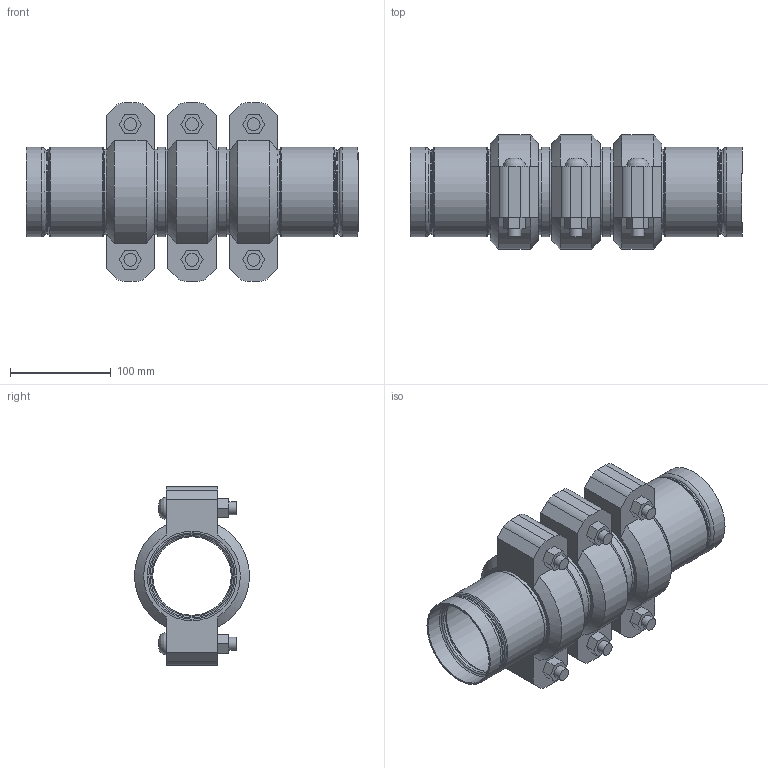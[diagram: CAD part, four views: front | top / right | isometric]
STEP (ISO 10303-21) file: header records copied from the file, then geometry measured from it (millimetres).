
FILE_DESCRIPTION(/* description */ ('VIC STRENGTHIN 100 EXPANSION JOINT 3 COUPLINGS EXPANDED STYLE E155 (ST1)','CAx-IF Rec.Pracs.---Representation and Presentation of Product Manufacturing Information (PMI)---4.0---2014-10-13'),/* implementation_level */ '2;1');
FILE_NAME(/* name */ 'C:\Users\Vjadhav\AppData\Roaming\Autodesk\ApplicationPlugins\Victaulic.Temp\A946\Victaulic_SS-StrengThin 100_Expansion Joint_Expanded_3 Couplings_Style E155 (ST1)_3 (80).stp',/* time_stamp */ '2021-07-23T19:28:10+06:00',/* author */ ('kkamble'),/* organization */ ('Victaulic'),/* preprocessor_version */ 'ST-DEVELOPER v17.2',/* originating_system */ 'Autodesk Inventor 2019',/* authorisation */ '');
FILE_SCHEMA (('AP242_MANAGED_MODEL_BASED_3D_ENGINEERING_MIM_LF { 1 0 10303 442 1 1 4 }'));
Length unit declared in the file: inch
Products named in the file (4): E155-03.0; E494G-03.0; Nipple-03.0; 075-03.0
Assembly tree (7 placements, depth 2):
  E155-03.0
    E494G-03.0  x2
    Nipple-03.0  x2
    075-03.0  x3
Bounding box: 329.95 x 113.88 x 177.8 mm (x, y, z)
Volume: 1238098.7 mm3; surface area: 370499.9 mm2
Topology: 7 solids, 13 shells, 263 faces, 681 edges, 484 vertices
Faces by surface type: plane 132, cylinder 77, torus 32, cone 16, bspline 6
Full cylindrical faces by diameter (mm): 12.7 x12, 14.605 x6, 77.927 x2, 79.985 x2, 81.737 x2, 82.55 x3, 83.185 x2, 84.938 x6, 85.7 x6, 88.9 x18
Entity records: 3718 total; most frequent: DIRECTION 657, CARTESIAN_POINT 653, ORIENTED_EDGE 548, AXIS2_PLACEMENT_3D 279, EDGE_CURVE 274, VERTEX_POINT 197, CIRCLE 167, EDGE_LOOP 129
